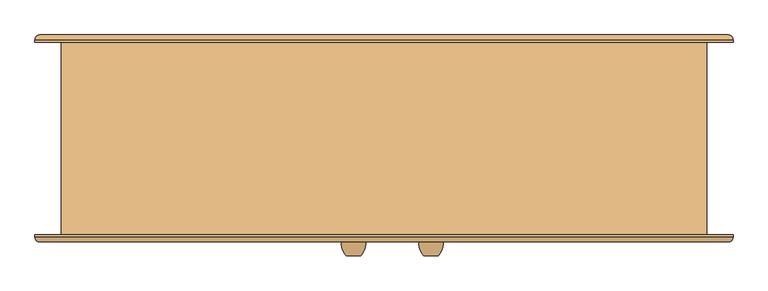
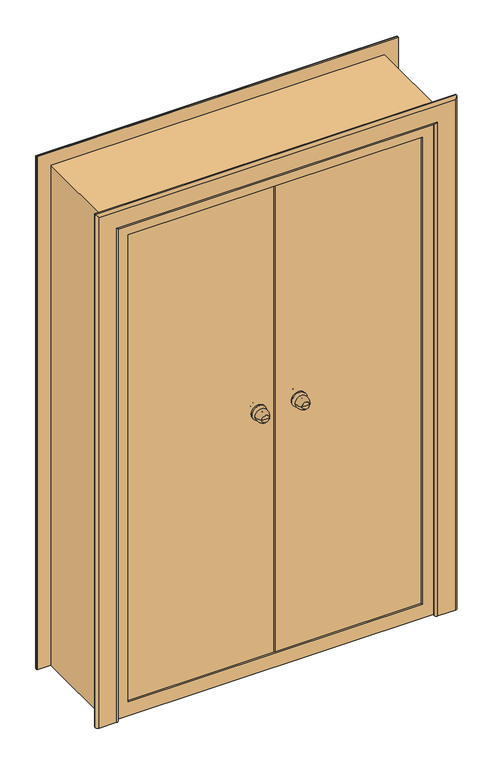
"""IFC4 building model written with IfcOpenShell, lengths in millimetres: door geometry, Наружная дверь 2-Навесная - Один проем наружу с порогом - 31173-2003 : ДСН ДКН М2 2100-1300 ГОСТ 31173-2003."""

import ifcopenshell
import ifcopenshell.guid

model = None  # the IFC model being written
_history = None  # IfcOwnerHistory: only IFC2X3 demands one
_inside = {}  # id of a spatial element -> (the spatial element, [elements in it])
_under = {}  # id of a project, library or spatial element -> (it, [spatial elements below it])
_declared = {}  # id of a project -> (the project, [libraries it declares])
_typed = {}  # id of a type object -> (the type object, [elements of that type])
_made_of = {}  # id of a material, layer set ... -> (it, [elements and type objects made of it])


def new_model(schema):
    """Start an empty IFC model of exactly this schema.

    Asked for "IFC4X3", IfcOpenShell would pick the latest addendum, in which some entities
    have other attributes; the version numbers below select the first issue.
    IFC2X3 requires an IfcOwnerHistory on every rooted entity: one is made here for all.
    """
    global model, _history
    if schema == "IFC4X3":
        model = ifcopenshell.file(schema_version=(4, 3, 0, 0))
    else:
        model = ifcopenshell.file(schema=schema)
    _inside.clear()
    _under.clear()
    _declared.clear()
    _typed.clear()
    _made_of.clear()
    _history = None
    if model.schema == "IFC2X3":
        org = make("IfcOrganization", Name="unknown")
        user = make(
            "IfcPersonAndOrganization",
            ThePerson=make("IfcPerson", FamilyName="unknown"),
            TheOrganization=org,
        )
        app = make(
            "IfcApplication",
            ApplicationDeveloper=org,
            Version="unknown",
            ApplicationFullName="unknown",
            ApplicationIdentifier="unknown",
        )
        _history = make(
            "IfcOwnerHistory",
            OwningUser=user,
            OwningApplication=app,
            ChangeAction="ADDED",
            CreationDate=0,
        )
    return model


def make(cls, **values):
    """One entity of the class cls with the attributes given. An attribute that is None is left unset."""
    return model.create_entity(
        cls, **{name: value for name, value in values.items() if value is not None}
    )


def rooted(cls, **values):
    """An entity with a GlobalId (a new one), such as an element, a storey or a relation."""
    return make(cls, GlobalId=ifcopenshell.guid.new(), OwnerHistory=_history, **values)


def si_unit(unit_type, name, prefix=None):
    """IfcSIUnit, for example si_unit("LENGTHUNIT", "METRE", prefix="MILLI")."""
    return make("IfcSIUnit", UnitType=unit_type, Prefix=prefix, Name=name)


def assignment(units):
    """IfcUnitAssignment: the units of a project."""
    return None if units is None else make("IfcUnitAssignment", Units=units)


def point(xyz):
    """IfcCartesianPoint."""
    return None if xyz is None else make("IfcCartesianPoint", Coordinates=xyz)


def direction(xyz):
    """IfcDirection."""
    return None if xyz is None else make("IfcDirection", DirectionRatios=xyz)


def frame(location, z_axis=None, x_axis=None):
    """IfcAxis2Placement3D, a coordinate frame: its origin and axes. An axis left out is left unset."""
    return make(
        "IfcAxis2Placement3D",
        Location=point(location),
        Axis=direction(z_axis),
        RefDirection=direction(x_axis),
    )


def origin():
    """The frame at (0, 0, 0) with its axes left unset."""
    return frame((0.0, 0.0, 0.0))


def place(relative_to, where):
    """IfcLocalPlacement: puts the frame where relative to a parent placement (None: the world)."""
    return make(
        "IfcLocalPlacement", PlacementRelTo=relative_to, RelativePlacement=where
    )


def context(
    kind, dimensions, precision=None, world=None, true_north=None, identifier=None
):
    """IfcGeometricRepresentationContext, for example the 3D "Model" context."""
    return make(
        "IfcGeometricRepresentationContext",
        ContextIdentifier=identifier,
        ContextType=kind,
        CoordinateSpaceDimension=dimensions,
        Precision=precision,
        WorldCoordinateSystem=world,
        TrueNorth=true_north,
    )


def project(units=None, contexts=None):
    """IfcProject with its units and contexts."""
    return rooted(
        "IfcProject",
        Name="project",
        RepresentationContexts=contexts,
        UnitsInContext=assignment(units),
    )


def spatial(cls, under=None, at=None, **own):
    """A site, building, storey or space (cls), placed at a placement, below another one or the project."""
    s = rooted(cls, ObjectPlacement=at, **own)
    if under is not None:
        _under.setdefault(under.id(), (under, []))[1].append(s)
    return s


def polyline(points):
    """IfcPolyline through the points."""
    return make("IfcPolyline", Points=[point(p) for p in points])


def circle_curve(where, radius):
    """IfcCircle in the frame where."""
    return make("IfcCircle", Position=where, Radius=radius)


def ellipse_curve(where, semi_axis1, semi_axis2):
    """IfcEllipse in the frame where."""
    return make(
        "IfcEllipse", Position=where, SemiAxis1=semi_axis1, SemiAxis2=semi_axis2
    )


def trimmed(basis, trim1, trim2, sense, master):
    """IfcTrimmedCurve: the piece of a basis curve between two trims."""
    return make(
        "IfcTrimmedCurve",
        BasisCurve=basis,
        Trim1=trim1,
        Trim2=trim2,
        SenseAgreement=sense,
        MasterRepresentation=master,
    )


def outline(outer, holes=None, kind="AREA"):
    """IfcArbitraryClosedProfileDef: a profile drawn as a closed curve; with holes, ...WithVoids."""
    if holes is None:
        return make("IfcArbitraryClosedProfileDef", ProfileType=kind, OuterCurve=outer)
    return make(
        "IfcArbitraryProfileDefWithVoids",
        ProfileType=kind,
        OuterCurve=outer,
        InnerCurves=holes,
    )


def extrude(swept, where, along, depth):
    """IfcExtrudedAreaSolid: the profile swept, set in the frame where, extruded along a direction by depth."""
    return make(
        "IfcExtrudedAreaSolid",
        SweptArea=swept,
        Position=where,
        ExtrudedDirection=direction(along),
        Depth=depth,
    )


def faces_of(points, faces, orient=None, outer=None):
    """IfcFace entities. A face is a list of loops; a loop is a list of indices into points, from 0.

    orient and outer hold one flag for each loop. By default every Orientation is true, the
    first loop of a face is its IfcFaceOuterBound and the others are IfcFaceBound.
    """
    made = []
    for i, loops in enumerate(faces):
        bounds = []
        for j, loop in enumerate(loops):
            is_outer = j == 0 if outer is None else outer[i][j]
            bounds.append(
                make(
                    "IfcFaceOuterBound" if is_outer else "IfcFaceBound",
                    Bound=make("IfcPolyLoop", Polygon=[points[k] for k in loop]),
                    Orientation=True if orient is None else orient[i][j],
                )
            )
        made.append(make("IfcFace", Bounds=bounds))
    return made


def faceted_brep(points, faces, orient=None, outer=None, voids=None):
    """IfcFacetedBrep: a solid bounded by flat faces; with voids (closed shells), ...WithVoids."""
    shared = [point(p) for p in points]
    hull = make("IfcClosedShell", CfsFaces=faces_of(shared, faces, orient, outer))
    if voids is None:
        return make("IfcFacetedBrep", Outer=hull)
    return make(
        "IfcFacetedBrepWithVoids",
        Outer=hull,
        Voids=[
            make(cls, CfsFaces=faces_of(shared, fs, o, b)) for cls, fs, o, b in voids
        ],
    )


def shape(context_of_items, identifier, shape_type, items):
    """IfcShapeRepresentation: the items that make up one representation, for example the "Body"."""
    return make(
        "IfcShapeRepresentation",
        ContextOfItems=context_of_items,
        RepresentationIdentifier=identifier,
        RepresentationType=shape_type,
        Items=items,
    )


def source(mapping_origin, context_of_items, identifier, shape_type, items):
    """IfcRepresentationMap: a shape defined once, which mapped items show again and again."""
    return make(
        "IfcRepresentationMap",
        MappingOrigin=mapping_origin,
        MappedRepresentation=shape(context_of_items, identifier, shape_type, items),
    )


def transform(
    local_origin,
    x_axis=None,
    y_axis=None,
    z_axis=None,
    scale=None,
    scale2=None,
    scale3=None,
    uniform=True,
):
    """IfcCartesianTransformationOperator3D, or its non-uniform kind. x_axis, y_axis, z_axis: its Axis1, 2, 3."""
    if uniform:
        return make(
            "IfcCartesianTransformationOperator3D",
            Axis1=direction(x_axis),
            Axis2=direction(y_axis),
            LocalOrigin=point(local_origin),
            Scale=scale,
            Axis3=direction(z_axis),
        )
    return make(
        "IfcCartesianTransformationOperator3DnonUniform",
        Axis1=direction(x_axis),
        Axis2=direction(y_axis),
        LocalOrigin=point(local_origin),
        Scale=scale,
        Axis3=direction(z_axis),
        Scale2=scale2,
        Scale3=scale3,
    )


def mapped(mapping_source, mapping_target):
    """IfcMappedItem: shows the shape of a source again, moved by a transform."""
    return make(
        "IfcMappedItem", MappingSource=mapping_source, MappingTarget=mapping_target
    )


def made_of(thing, what):
    """Note that an element or type object is made of a material, layer set ...; save() writes the relation."""
    if what is not None:
        _made_of.setdefault(what.id(), (what, []))[1].append(thing)
    return thing


def element(
    cls,
    number,
    at=None,
    inside=None,
    cuts=None,
    type_object=None,
    material=None,
    context=None,
    identifier="Body",
    shape_type=None,
    held_by="IfcProductDefinitionShape",
    body=None,
    shapes=None,
    **own,
):
    """One element of the class cls, such as IfcWall. Its Tag is "e" and its number.

    at: its placement. inside: the storey or other place that contains it. cuts: it is an
    opening in that element (IfcRelVoidsElement). A single representation is given by context,
    identifier, shape_type and body (its items); several are given by shapes. held_by: the class
    of the entity that holds the representations. save() writes the other relations.
    """
    e = rooted(cls, Tag="e%d" % number, ObjectPlacement=at, **own)
    if body is not None:
        shapes = [shape(context, identifier, shape_type, body)]
    if shapes is not None:
        e.Representation = make(held_by, Representations=shapes)
    if inside is not None:
        _inside.setdefault(inside.id(), (inside, []))[1].append(e)
    if cuts is not None:
        rooted(
            "IfcRelVoidsElement", RelatingBuildingElement=cuts, RelatedOpeningElement=e
        )
    if type_object is not None:
        _typed.setdefault(type_object.id(), (type_object, []))[1].append(e)
    return made_of(e, material)


def aggregate(whole, parts):
    """IfcRelAggregates: a whole, such as a stair, and the parts it consists of."""
    return rooted("IfcRelAggregates", RelatingObject=whole, RelatedObjects=parts)


def save(model, path):
    """Write the relations noted so far, then the file.

    IfcRelAggregates (storeys below a building ...), IfcRelContainedInSpatialStructure (elements
    in a storey), IfcRelDefinesByType, IfcRelAssociatesMaterial and IfcRelDeclares: one each for
    every whole, place, type object, material and project.
    """
    for whole, parts in _under.values():
        aggregate(whole, parts)
    for where, things in _inside.values():
        rooted(
            "IfcRelContainedInSpatialStructure",
            RelatedElements=things,
            RelatingStructure=where,
        )
    for kind, things in _typed.values():
        rooted("IfcRelDefinesByType", RelatedObjects=things, RelatingType=kind)
    for what, things in _made_of.values():
        rooted("IfcRelAssociatesMaterial", RelatedObjects=things, RelatingMaterial=what)
    for by, libraries in _declared.values():
        rooted("IfcRelDeclares", RelatingContext=by, RelatedDefinitions=libraries)
    model.write(path)


def plane_surface(at):
    """IfcPlane: the flat surface through the origin of the frame at, square to its z axis."""
    return make("IfcPlane", Position=at)


def cylinder_surface(at, radius):
    """IfcCylindricalSurface: all points at the distance radius from the z axis of the frame at."""
    return make("IfcCylindricalSurface", Position=at, Radius=radius)


def revolved_surface(curve, axis_point, axis_direction):
    """IfcSurfaceOfRevolution: the curve turned about the line through axis_point along axis_direction."""
    return make(
        "IfcSurfaceOfRevolution",
        SweptCurve=make("IfcArbitraryOpenProfileDef", ProfileType="CURVE", Curve=curve),
        AxisPosition=make("IfcAxis1Placement", Location=point(axis_point), Axis=direction(axis_direction)),
    )


def advanced_brep(points, edges, surfaces, faces):
    """IfcAdvancedBrep: a solid bounded by faces that lie on surfaces and meet in shared edges.

    An edge is (start, end): straight between two places in points (the first is 0);
    or (start, end, curve); or (start, end, curve, False) where it runs against its curve.
    A face is (place in surfaces, loops), or (place, loops, False) where it looks against
    its surface's normal. A loop lists edges by number (the first is 1), with a minus sign
    where the edge is run from its end to its start. The first loop is the outer one.
    """
    corners = [point(p) for p in points]
    vertices = [make("IfcVertexPoint", VertexGeometry=c) for c in corners]
    made = []
    for start, end, *more in edges:
        made.append(
            make(
                "IfcEdgeCurve",
                EdgeStart=vertices[start],
                EdgeEnd=vertices[end],
                EdgeGeometry=more[0] if more else make("IfcPolyline", Points=[corners[start], corners[end]]),
                SameSense=more[1] if len(more) > 1 else True,
            )
        )
    hull = []
    for where, loops, *sense in faces:
        bounds = []
        for j, loop in enumerate(loops):
            ring = [make("IfcOrientedEdge", EdgeElement=made[abs(k) - 1], Orientation=k > 0) for k in loop]
            bounds.append(
                make(
                    "IfcFaceOuterBound" if j == 0 else "IfcFaceBound",
                    Bound=make("IfcEdgeLoop", EdgeList=ring),
                    Orientation=True,
                )
            )
        hull.append(make("IfcAdvancedFace", Bounds=bounds, FaceSurface=surfaces[where], SameSense=sense[0] if sense else True))
    return make("IfcAdvancedBrep", Outer=make("IfcClosedShell", CfsFaces=hull))


def door_6ba15531(model_context):
    return source(origin(), model_context, "Body", "SolidModel", [
        advanced_brep(
        [(113.0, -243.0, 1100.0), (83.0, -243.0, 1100.0), (98.0, -243.0, 1100.0), (123.0, -213.0, 1100.0), (73.0, -213.0, 1100.0), (116.0, -213.0, 1100.0), (80.0, -213.0, 1100.0), (108.0, -205.0, 1100.0), (88.0, -205.0, 1100.0), (108.0, -199.0, 1100.0), (88.0, -199.0, 1100.0), (68.0, -199.0, 1100.0), (128.0, -199.0, 1100.0), (68.0, -193.0, 1100.0), (128.0, -193.0, 1100.0)],
        [
            (0, 1, circle_curve(frame((98.0, -243.0, 1100.0), z_axis=(0.0, -1.0, 0.0), x_axis=(-1.0, 0.0, 0.0)), 15.0)),
            (1, 2),
            (2, 0),
            (1, 0, circle_curve(frame((98.0, -243.0, 1100.0), z_axis=(0.0, -1.0, 0.0), x_axis=(-1.0, 0.0, 0.0)), 15.0)),
            (0, 3, circle_curve(frame((88.3773735, -218.1257912, 1100.0), z_axis=(0.0, 0.0, 1.0), x_axis=(-1.0, 0.0, 0.0)), 35.0)),
            (3, 4, circle_curve(frame((98.0, -213.0, 1100.0), z_axis=(0.0, -1.0, 0.0), x_axis=(-1.0, 0.0, 0.0)), 25.0)),
            (4, 1, circle_curve(frame((107.6226265, -218.1257912, 1100.0), z_axis=(0.0, 0.0, 1.0), x_axis=(1.0, 0.0, 0.0)), 35.0)),
            (4, 3, circle_curve(frame((98.0, -213.0, 1100.0), z_axis=(0.0, -1.0, 0.0), x_axis=(-1.0, 0.0, 0.0)), 25.0)),
            (3, 5),
            (5, 6, circle_curve(frame((98.0, -213.0, 1100.0), z_axis=(0.0, -1.0, 0.0), x_axis=(-1.0, 0.0, 0.0)), 18.0)),
            (6, 4),
            (6, 5, circle_curve(frame((98.0, -213.0, 1100.0), z_axis=(0.0, -1.0, 0.0), x_axis=(-1.0, 0.0, 0.0)), 18.0)),
            (5, 7, circle_curve(frame((116.0, -205.0, 1100.0), z_axis=(0.0, 0.0, -1.0), x_axis=(-1.0, 0.0, 0.0)), 8.0)),
            (7, 8, circle_curve(frame((98.0, -205.0, 1100.0), z_axis=(0.0, -1.0, 0.0), x_axis=(-1.0, 0.0, 0.0)), 10.0)),
            (8, 6, circle_curve(frame((80.0, -205.0, 1100.0), z_axis=(0.0, 0.0, -1.0), x_axis=(1.0, 0.0, 0.0)), 8.0)),
            (8, 7, circle_curve(frame((98.0, -205.0, 1100.0), z_axis=(0.0, -1.0, 0.0), x_axis=(-1.0, 0.0, 0.0)), 10.0)),
            (7, 9),
            (9, 10, circle_curve(frame((98.0, -199.0, 1100.0), z_axis=(0.0, -1.0, 0.0), x_axis=(-1.0, 0.0, 0.0)), 10.0)),
            (10, 8),
            (10, 9, circle_curve(frame((98.0, -199.0, 1100.0), z_axis=(0.0, -1.0, 0.0), x_axis=(-1.0, 0.0, 0.0)), 10.0)),
            (11, 12, circle_curve(frame((98.0, -199.0, 1100.0), z_axis=(0.0, -1.0, 0.0), x_axis=(1.0, 0.0, 0.0)), 30.0)),
            (12, 11, circle_curve(frame((98.0, -199.0, 1100.0), z_axis=(0.0, -1.0, 0.0), x_axis=(1.0, 0.0, 0.0)), 30.0)),
            (13, 14, circle_curve(frame((98.0, -193.0, 1100.0), z_axis=(0.0, 1.0, 0.0), x_axis=(1.0, 0.0, 0.0)), 30.0)),
            (14, 13, circle_curve(frame((98.0, -193.0, 1100.0), z_axis=(0.0, 1.0, 0.0), x_axis=(1.0, 0.0, 0.0)), 30.0)),
            (11, 13),
            (14, 12),
        ],
        [
            plane_surface(frame((98.0, -243.0, 1100.0), z_axis=(0.0, -1.0, 0.0), x_axis=(-1.0, 0.0, 0.0))),
            revolved_surface(trimmed(ellipse_curve(frame((107.6226265, -218.1257912, 1100.0), z_axis=(0.0, 0.0, -1.0), x_axis=(1.0, 0.0, 0.0)), 35.0, 35.0), [point((83.0, -243.0, 1100.0))], [point((73.0, -213.0, 1100.0))], True, "CARTESIAN"), (98.0, -273.0, 1100.0), (0.0, 1.0, 0.0)),
            plane_surface(frame((98.0, -213.0, 1100.0), z_axis=(0.0, 1.0, 0.0), x_axis=(-1.0, 0.0, 0.0))),
            revolved_surface(trimmed(ellipse_curve(frame((80.0, -205.0, 1100.0), z_axis=(0.0, 0.0, 1.0), x_axis=(1.0, 0.0, 0.0)), 8.0, 8.0), [point((80.0, -213.0, 1100.0))], [point((88.0, -205.0, 1100.0))], True, "CARTESIAN"), (98.0, -273.0, 1100.0), (0.0, 1.0, 0.0)),
            cylinder_surface(frame((98.0, -273.0, 1100.0), z_axis=(0.0, 1.0, 0.0), x_axis=(-1.0, 0.0, 0.0)), 10.0),
            plane_surface(frame((128.0, -199.0, 1100.0), z_axis=(0.0, -1.0, 0.0), x_axis=(0.0, 0.0, 1.0))),
            plane_surface(frame((128.0, -193.0, 1100.0), z_axis=(0.0, 1.0, 0.0), x_axis=(0.0, 0.0, -1.0))),
            cylinder_surface(frame((98.0, -193.0, 1100.0), z_axis=(0.0, -1.0, 0.0), x_axis=(1.0, 0.0, 0.0)), 30.0),
        ],
        [
            (0, [[1, 2, 3]]),
            (0, [[-2, 4, -3]]),
            (1, [[-1, 5, 6, 7]]),
            (1, [[-4, -7, 8, -5]]),
            (2, [[-6, 9, 10, 11]]),
            (2, [[-8, -11, 12, -9]]),
            (3, [[-10, 13, 14, 15]]),
            (3, [[-12, -15, 16, -13]]),
            (4, [[-14, 17, 18, 19]]),
            (4, [[-16, -19, 20, -17]]),
            (5, [[21, 22], [-18, -20]]),
            (6, [[23, 24]]),
            (7, [[-21, 25, -24, 26]]),
            (7, [[-22, -26, -23, -25]]),
        ],
    ),
        advanced_brep(
        [(83.0, -103.0, 1100.0), (113.0, -103.0, 1100.0), (98.0, -103.0, 1100.0), (73.0, -133.0, 1100.0), (123.0, -133.0, 1100.0), (80.0, -133.0, 1100.0), (116.0, -133.0, 1100.0), (88.0, -141.0, 1100.0), (108.0, -141.0, 1100.0), (88.0, -147.0, 1100.0), (108.0, -147.0, 1100.0), (128.0, -147.0, 1100.0), (68.0, -147.0, 1100.0), (128.0, -153.0, 1100.0), (68.0, -153.0, 1100.0)],
        [
            (0, 1, circle_curve(frame((98.0, -103.0, 1100.0), z_axis=(0.0, 1.0, 0.0), x_axis=(1.0, 0.0, 0.0)), 15.0)),
            (1, 2),
            (2, 0),
            (1, 0, circle_curve(frame((98.0, -103.0, 1100.0), z_axis=(0.0, 1.0, 0.0), x_axis=(1.0, 0.0, 0.0)), 15.0)),
            (0, 3, circle_curve(frame((107.6226265, -127.8742088, 1100.0), z_axis=(0.0, 0.0, 1.0), x_axis=(1.0, 0.0, 0.0)), 35.0)),
            (3, 4, circle_curve(frame((98.0, -133.0, 1100.0), z_axis=(0.0, 1.0, 0.0), x_axis=(1.0, 0.0, 0.0)), 25.0)),
            (4, 1, circle_curve(frame((88.3773735, -127.8742088, 1100.0), z_axis=(0.0, 0.0, 1.0), x_axis=(-1.0, 0.0, 0.0)), 35.0)),
            (4, 3, circle_curve(frame((98.0, -133.0, 1100.0), z_axis=(0.0, 1.0, 0.0), x_axis=(1.0, 0.0, 0.0)), 25.0)),
            (3, 5),
            (5, 6, circle_curve(frame((98.0, -133.0, 1100.0), z_axis=(0.0, 1.0, 0.0), x_axis=(1.0, 0.0, 0.0)), 18.0)),
            (6, 4),
            (6, 5, circle_curve(frame((98.0, -133.0, 1100.0), z_axis=(0.0, 1.0, 0.0), x_axis=(1.0, 0.0, 0.0)), 18.0)),
            (5, 7, circle_curve(frame((80.0, -141.0, 1100.0), z_axis=(0.0, 0.0, -1.0), x_axis=(1.0, 0.0, 0.0)), 8.0)),
            (7, 8, circle_curve(frame((98.0, -141.0, 1100.0), z_axis=(0.0, 1.0, 0.0), x_axis=(1.0, 0.0, 0.0)), 10.0)),
            (8, 6, circle_curve(frame((116.0, -141.0, 1100.0), z_axis=(0.0, 0.0, -1.0), x_axis=(-1.0, 0.0, 0.0)), 8.0)),
            (8, 7, circle_curve(frame((98.0, -141.0, 1100.0), z_axis=(0.0, 1.0, 0.0), x_axis=(1.0, 0.0, 0.0)), 10.0)),
            (7, 9),
            (9, 10, circle_curve(frame((98.0, -147.0, 1100.0), z_axis=(0.0, 1.0, 0.0), x_axis=(1.0, 0.0, 0.0)), 10.0)),
            (10, 8),
            (10, 9, circle_curve(frame((98.0, -147.0, 1100.0), z_axis=(0.0, 1.0, 0.0), x_axis=(1.0, 0.0, 0.0)), 10.0)),
            (11, 12, circle_curve(frame((98.0, -147.0, 1100.0), z_axis=(0.0, 1.0, 0.0), x_axis=(-1.0, 0.0, 0.0)), 30.0)),
            (12, 11, circle_curve(frame((98.0, -147.0, 1100.0), z_axis=(0.0, 1.0, 0.0), x_axis=(-1.0, 0.0, 0.0)), 30.0)),
            (13, 14, circle_curve(frame((98.0, -153.0, 1100.0), z_axis=(0.0, -1.0, 0.0), x_axis=(-1.0, 0.0, 0.0)), 30.0)),
            (14, 13, circle_curve(frame((98.0, -153.0, 1100.0), z_axis=(0.0, -1.0, 0.0), x_axis=(-1.0, 0.0, 0.0)), 30.0)),
            (11, 13),
            (14, 12),
        ],
        [
            plane_surface(frame((98.0, -103.0, 1100.0), z_axis=(0.0, 1.0, 0.0), x_axis=(1.0, 0.0, 0.0))),
            revolved_surface(trimmed(ellipse_curve(frame((88.3773735, -127.8742088, 1100.0), z_axis=(0.0, 0.0, -1.0), x_axis=(-1.0, 0.0, 0.0)), 35.0, 35.0), [point((113.0, -103.0, 1100.0))], [point((123.0, -133.0, 1100.0))], True, "CARTESIAN"), (98.0, -73.0, 1100.0), (0.0, -1.0, 0.0)),
            plane_surface(frame((98.0, -133.0, 1100.0), z_axis=(0.0, -1.0, 0.0), x_axis=(1.0, 0.0, 0.0))),
            revolved_surface(trimmed(ellipse_curve(frame((116.0, -141.0, 1100.0), z_axis=(0.0, 0.0, 1.0), x_axis=(-1.0, 0.0, 0.0)), 8.0, 8.0), [point((116.0, -133.0, 1100.0))], [point((108.0, -141.0, 1100.0))], True, "CARTESIAN"), (98.0, -73.0, 1100.0), (0.0, -1.0, 0.0)),
            cylinder_surface(frame((98.0, -73.0, 1100.0), z_axis=(0.0, -1.0, 0.0), x_axis=(1.0, 0.0, 0.0)), 10.0),
            plane_surface(frame((68.0, -147.0, 1100.0), z_axis=(0.0, 1.0, 0.0), x_axis=(0.0, 0.0, 1.0))),
            plane_surface(frame((68.0, -153.0, 1100.0), z_axis=(0.0, -1.0, 0.0), x_axis=(0.0, 0.0, -1.0))),
            cylinder_surface(frame((98.0, -153.0, 1100.0), z_axis=(0.0, 1.0, 0.0), x_axis=(-1.0, 0.0, 0.0)), 30.0),
        ],
        [
            (0, [[1, 2, 3]]),
            (0, [[-2, 4, -3]]),
            (1, [[-1, 5, 6, 7]]),
            (1, [[-4, -7, 8, -5]]),
            (2, [[-6, 9, 10, 11]]),
            (2, [[-8, -11, 12, -9]]),
            (3, [[-10, 13, 14, 15]]),
            (3, [[-12, -15, 16, -13]]),
            (4, [[-14, 17, 18, 19]]),
            (4, [[-16, -19, 20, -17]]),
            (5, [[21, 22], [-18, -20]]),
            (6, [[23, 24]]),
            (7, [[-21, 25, -24, 26]]),
            (7, [[-22, -26, -23, -25]]),
        ],
    ),
        advanced_brep(
        [(-48.0, -243.0, 1100.0), (-78.0, -243.0, 1100.0), (-63.0, -243.0, 1100.0), (-38.0, -213.0, 1100.0), (-88.0, -213.0, 1100.0), (-45.0, -213.0, 1100.0), (-81.0, -213.0, 1100.0), (-53.0, -205.0, 1100.0), (-73.0, -205.0, 1100.0), (-53.0, -199.0, 1100.0), (-73.0, -199.0, 1100.0), (-93.0, -199.0, 1100.0), (-33.0, -199.0, 1100.0), (-93.0, -193.0, 1100.0), (-33.0, -193.0, 1100.0)],
        [
            (0, 1, circle_curve(frame((-63.0, -243.0, 1100.0), z_axis=(0.0, -1.0, 0.0), x_axis=(-1.0, 0.0, 0.0)), 15.0)),
            (1, 2),
            (2, 0),
            (1, 0, circle_curve(frame((-63.0, -243.0, 1100.0), z_axis=(0.0, -1.0, 0.0), x_axis=(-1.0, 0.0, 0.0)), 15.0)),
            (0, 3, circle_curve(frame((-72.6226265, -218.1257912, 1100.0), z_axis=(0.0, 0.0, 1.0), x_axis=(-1.0, 0.0, 0.0)), 35.0)),
            (3, 4, circle_curve(frame((-63.0, -213.0, 1100.0), z_axis=(0.0, -1.0, 0.0), x_axis=(-1.0, 0.0, 0.0)), 25.0)),
            (4, 1, circle_curve(frame((-53.3773735, -218.1257912, 1100.0), z_axis=(0.0, 0.0, 1.0), x_axis=(1.0, 0.0, 0.0)), 35.0)),
            (4, 3, circle_curve(frame((-63.0, -213.0, 1100.0), z_axis=(0.0, -1.0, 0.0), x_axis=(-1.0, 0.0, 0.0)), 25.0)),
            (3, 5),
            (5, 6, circle_curve(frame((-63.0, -213.0, 1100.0), z_axis=(0.0, -1.0, 0.0), x_axis=(-1.0, 0.0, 0.0)), 18.0)),
            (6, 4),
            (6, 5, circle_curve(frame((-63.0, -213.0, 1100.0), z_axis=(0.0, -1.0, 0.0), x_axis=(-1.0, 0.0, 0.0)), 18.0)),
            (5, 7, circle_curve(frame((-45.0, -205.0, 1100.0), z_axis=(0.0, 0.0, -1.0), x_axis=(-1.0, 0.0, 0.0)), 8.0)),
            (7, 8, circle_curve(frame((-63.0, -205.0, 1100.0), z_axis=(0.0, -1.0, 0.0), x_axis=(-1.0, 0.0, 0.0)), 10.0)),
            (8, 6, circle_curve(frame((-81.0, -205.0, 1100.0), z_axis=(0.0, 0.0, -1.0), x_axis=(1.0, 0.0, 0.0)), 8.0)),
            (8, 7, circle_curve(frame((-63.0, -205.0, 1100.0), z_axis=(0.0, -1.0, 0.0), x_axis=(-1.0, 0.0, 0.0)), 10.0)),
            (7, 9),
            (9, 10, circle_curve(frame((-63.0, -199.0, 1100.0), z_axis=(0.0, -1.0, 0.0), x_axis=(-1.0, 0.0, 0.0)), 10.0)),
            (10, 8),
            (10, 9, circle_curve(frame((-63.0, -199.0, 1100.0), z_axis=(0.0, -1.0, 0.0), x_axis=(-1.0, 0.0, 0.0)), 10.0)),
            (11, 12, circle_curve(frame((-63.0, -199.0, 1100.0), z_axis=(0.0, -1.0, 0.0), x_axis=(1.0, 0.0, 0.0)), 30.0)),
            (12, 11, circle_curve(frame((-63.0, -199.0, 1100.0), z_axis=(0.0, -1.0, 0.0), x_axis=(1.0, 0.0, 0.0)), 30.0)),
            (13, 14, circle_curve(frame((-63.0, -193.0, 1100.0), z_axis=(0.0, 1.0, 0.0), x_axis=(1.0, 0.0, 0.0)), 30.0)),
            (14, 13, circle_curve(frame((-63.0, -193.0, 1100.0), z_axis=(0.0, 1.0, 0.0), x_axis=(1.0, 0.0, 0.0)), 30.0)),
            (11, 13),
            (14, 12),
        ],
        [
            plane_surface(frame((-63.0, -243.0, 1100.0), z_axis=(0.0, -1.0, 0.0), x_axis=(-1.0, 0.0, 0.0))),
            revolved_surface(trimmed(ellipse_curve(frame((-53.3773735, -218.1257912, 1100.0), z_axis=(0.0, 0.0, -1.0), x_axis=(1.0, 0.0, 0.0)), 35.0, 35.0), [point((-78.0, -243.0, 1100.0))], [point((-88.0, -213.0, 1100.0))], True, "CARTESIAN"), (-63.0, -273.0, 1100.0), (0.0, 1.0, 0.0)),
            plane_surface(frame((-63.0, -213.0, 1100.0), z_axis=(0.0, 1.0, 0.0), x_axis=(-1.0, 0.0, 0.0))),
            revolved_surface(trimmed(ellipse_curve(frame((-81.0, -205.0, 1100.0), z_axis=(0.0, 0.0, 1.0), x_axis=(1.0, 0.0, 0.0)), 8.0, 8.0), [point((-81.0, -213.0, 1100.0))], [point((-73.0, -205.0, 1100.0))], True, "CARTESIAN"), (-63.0, -273.0, 1100.0), (0.0, 1.0, 0.0)),
            cylinder_surface(frame((-63.0, -273.0, 1100.0), z_axis=(0.0, 1.0, 0.0), x_axis=(-1.0, 0.0, 0.0)), 10.0),
            plane_surface(frame((-33.0, -199.0, 1100.0), z_axis=(0.0, -1.0, 0.0), x_axis=(0.0, 0.0, 1.0))),
            plane_surface(frame((-33.0, -193.0, 1100.0), z_axis=(0.0, 1.0, 0.0), x_axis=(0.0, 0.0, -1.0))),
            cylinder_surface(frame((-63.0, -193.0, 1100.0), z_axis=(0.0, -1.0, 0.0), x_axis=(1.0, 0.0, 0.0)), 30.0),
        ],
        [
            (0, [[1, 2, 3]]),
            (0, [[-2, 4, -3]]),
            (1, [[-1, 5, 6, 7]]),
            (1, [[-4, -7, 8, -5]]),
            (2, [[-6, 9, 10, 11]]),
            (2, [[-8, -11, 12, -9]]),
            (3, [[-10, 13, 14, 15]]),
            (3, [[-12, -15, 16, -13]]),
            (4, [[-14, 17, 18, 19]]),
            (4, [[-16, -19, 20, -17]]),
            (5, [[21, 22], [-18, -20]]),
            (6, [[23, 24]]),
            (7, [[-21, 25, -24, 26]]),
            (7, [[-22, -26, -23, -25]]),
        ],
    ),
        advanced_brep(
        [(-78.0, -103.0, 1100.0), (-48.0, -103.0, 1100.0), (-63.0, -103.0, 1100.0), (-88.0, -133.0, 1100.0), (-38.0, -133.0, 1100.0), (-81.0, -133.0, 1100.0), (-45.0, -133.0, 1100.0), (-73.0, -141.0, 1100.0), (-53.0, -141.0, 1100.0), (-73.0, -147.0, 1100.0), (-53.0, -147.0, 1100.0), (-33.0, -147.0, 1100.0), (-93.0, -147.0, 1100.0), (-33.0, -153.0, 1100.0), (-93.0, -153.0, 1100.0)],
        [
            (0, 1, circle_curve(frame((-63.0, -103.0, 1100.0), z_axis=(0.0, 1.0, 0.0), x_axis=(1.0, 0.0, 0.0)), 15.0)),
            (1, 2),
            (2, 0),
            (1, 0, circle_curve(frame((-63.0, -103.0, 1100.0), z_axis=(0.0, 1.0, 0.0), x_axis=(1.0, 0.0, 0.0)), 15.0)),
            (0, 3, circle_curve(frame((-53.3773735, -127.8742088, 1100.0), z_axis=(0.0, 0.0, 1.0), x_axis=(1.0, 0.0, 0.0)), 35.0)),
            (3, 4, circle_curve(frame((-63.0, -133.0, 1100.0), z_axis=(0.0, 1.0, 0.0), x_axis=(1.0, 0.0, 0.0)), 25.0)),
            (4, 1, circle_curve(frame((-72.6226265, -127.8742088, 1100.0), z_axis=(0.0, 0.0, 1.0), x_axis=(-1.0, 0.0, 0.0)), 35.0)),
            (4, 3, circle_curve(frame((-63.0, -133.0, 1100.0), z_axis=(0.0, 1.0, 0.0), x_axis=(1.0, 0.0, 0.0)), 25.0)),
            (3, 5),
            (5, 6, circle_curve(frame((-63.0, -133.0, 1100.0), z_axis=(0.0, 1.0, 0.0), x_axis=(1.0, 0.0, 0.0)), 18.0)),
            (6, 4),
            (6, 5, circle_curve(frame((-63.0, -133.0, 1100.0), z_axis=(0.0, 1.0, 0.0), x_axis=(1.0, 0.0, 0.0)), 18.0)),
            (5, 7, circle_curve(frame((-81.0, -141.0, 1100.0), z_axis=(0.0, 0.0, -1.0), x_axis=(1.0, 0.0, 0.0)), 8.0)),
            (7, 8, circle_curve(frame((-63.0, -141.0, 1100.0), z_axis=(0.0, 1.0, 0.0), x_axis=(1.0, 0.0, 0.0)), 10.0)),
            (8, 6, circle_curve(frame((-45.0, -141.0, 1100.0), z_axis=(0.0, 0.0, -1.0), x_axis=(-1.0, 0.0, 0.0)), 8.0)),
            (8, 7, circle_curve(frame((-63.0, -141.0, 1100.0), z_axis=(0.0, 1.0, 0.0), x_axis=(1.0, 0.0, 0.0)), 10.0)),
            (7, 9),
            (9, 10, circle_curve(frame((-63.0, -147.0, 1100.0), z_axis=(0.0, 1.0, 0.0), x_axis=(1.0, 0.0, 0.0)), 10.0)),
            (10, 8),
            (10, 9, circle_curve(frame((-63.0, -147.0, 1100.0), z_axis=(0.0, 1.0, 0.0), x_axis=(1.0, 0.0, 0.0)), 10.0)),
            (11, 12, circle_curve(frame((-63.0, -147.0, 1100.0), z_axis=(0.0, 1.0, 0.0), x_axis=(-1.0, 0.0, 0.0)), 30.0)),
            (12, 11, circle_curve(frame((-63.0, -147.0, 1100.0), z_axis=(0.0, 1.0, 0.0), x_axis=(-1.0, 0.0, 0.0)), 30.0)),
            (13, 14, circle_curve(frame((-63.0, -153.0, 1100.0), z_axis=(0.0, -1.0, 0.0), x_axis=(-1.0, 0.0, 0.0)), 30.0)),
            (14, 13, circle_curve(frame((-63.0, -153.0, 1100.0), z_axis=(0.0, -1.0, 0.0), x_axis=(-1.0, 0.0, 0.0)), 30.0)),
            (11, 13),
            (14, 12),
        ],
        [
            plane_surface(frame((-63.0, -103.0, 1100.0), z_axis=(0.0, 1.0, 0.0), x_axis=(1.0, 0.0, 0.0))),
            revolved_surface(trimmed(ellipse_curve(frame((-72.6226265, -127.8742088, 1100.0), z_axis=(0.0, 0.0, -1.0), x_axis=(-1.0, 0.0, 0.0)), 35.0, 35.0), [point((-48.0, -103.0, 1100.0))], [point((-38.0, -133.0, 1100.0))], True, "CARTESIAN"), (-63.0, -73.0, 1100.0), (0.0, -1.0, 0.0)),
            plane_surface(frame((-63.0, -133.0, 1100.0), z_axis=(0.0, -1.0, 0.0), x_axis=(1.0, 0.0, 0.0))),
            revolved_surface(trimmed(ellipse_curve(frame((-45.0, -141.0, 1100.0), z_axis=(0.0, 0.0, 1.0), x_axis=(-1.0, 0.0, 0.0)), 8.0, 8.0), [point((-45.0, -133.0, 1100.0))], [point((-53.0, -141.0, 1100.0))], True, "CARTESIAN"), (-63.0, -73.0, 1100.0), (0.0, -1.0, 0.0)),
            cylinder_surface(frame((-63.0, -73.0, 1100.0), z_axis=(0.0, -1.0, 0.0), x_axis=(1.0, 0.0, 0.0)), 10.0),
            plane_surface(frame((-93.0, -147.0, 1100.0), z_axis=(0.0, 1.0, 0.0), x_axis=(0.0, 0.0, 1.0))),
            plane_surface(frame((-93.0, -153.0, 1100.0), z_axis=(0.0, -1.0, 0.0), x_axis=(0.0, 0.0, -1.0))),
            cylinder_surface(frame((-63.0, -153.0, 1100.0), z_axis=(0.0, 1.0, 0.0), x_axis=(-1.0, 0.0, 0.0)), 30.0),
        ],
        [
            (0, [[1, 2, 3]]),
            (0, [[-2, 4, -3]]),
            (1, [[-1, 5, 6, 7]]),
            (1, [[-4, -7, 8, -5]]),
            (2, [[-6, 9, 10, 11]]),
            (2, [[-8, -11, 12, -9]]),
            (3, [[-10, 13, 14, 15]]),
            (3, [[-12, -15, 16, -13]]),
            (4, [[-14, 17, 18, 19]]),
            (4, [[-16, -19, 20, -17]]),
            (5, [[21, 22], [-18, -20]]),
            (6, [[23, 24]]),
            (7, [[-21, 25, -24, 26]]),
            (7, [[-22, -26, -23, -25]]),
        ],
    ),
        faceted_brep([(38.0, -153.0, 25.0), (625.0, -153.0, 25.0), (625.0, -158.0, 25.0), (38.0, -158.0, 25.0), (38.0, -153.0, 2075.0), (625.0, -153.0, 2075.0), (625.0, -158.0, 2075.0), (38.0, -158.0, 2075.0), (38.0, -158.0, 2055.0), (605.0, -158.0, 2055.0), (605.0, -158.0, 45.0), (38.0, -158.0, 45.0), (38.0, -174.0, 45.0), (38.0, -174.0, 2055.0), (605.0, -193.0, 2055.0), (605.0, -193.0, 45.0), (3.0, -193.0, 45.0), (3.0, -174.0, 45.0), (3.0, -193.0, 2055.0), (3.0, -174.0, 2055.0)], [[[0, 1, 2, 3]], [[4, 5, 1, 0]], [[5, 6, 2, 1]], [[6, 7, 8, 9, 10, 11, 3, 2]], [[4, 0, 3, 11, 12, 13, 8, 7]], [[9, 14, 15, 10]], [[11, 10, 15, 16, 17, 12]], [[14, 18, 16, 15]], [[18, 19, 17, 16]], [[19, 13, 12, 17]], [[9, 8, 13, 19, 18, 14]], [[6, 5, 4, 7]]]),
        faceted_brep([(32.0, -158.0, 25.0), (-625.0, -158.0, 25.0), (-625.0, -153.0, 25.0), (32.0, -153.0, 25.0), (32.0, -158.0, 45.0), (-605.0, -158.0, 45.0), (-605.0, -158.0, 2055.0), (32.0, -158.0, 2055.0), (32.0, -158.0, 2075.0), (-625.0, -158.0, 2075.0), (-625.0, -153.0, 2075.0), (32.0, -153.0, 2075.0), (32.0, -168.0, 2055.0), (32.0, -168.0, 45.0), (-3.0, -168.0, 45.0), (-3.0, -193.0, 45.0), (-605.0, -193.0, 45.0), (-605.0, -193.0, 2055.0), (-3.0, -193.0, 2055.0), (-3.0, -168.0, 2055.0)], [[[0, 1, 2, 3]], [[0, 4, 5, 6, 7, 8, 9, 1]], [[1, 9, 10, 2]], [[10, 11, 3, 2]], [[3, 11, 8, 7, 12, 13, 4, 0]], [[5, 4, 13, 14, 15, 16]], [[17, 6, 5, 16]], [[18, 17, 16, 15]], [[19, 18, 15, 14]], [[12, 19, 14, 13]], [[11, 10, 9, 8]], [[7, 6, 17, 18, 19, 12]]]),
        extrude(outline(polyline([(0.0, 635.0), (0.0, 650.0), (2100.0, 650.0), (2100.0, -650.0), (0.0, -650.0), (0.0, -635.0), (2085.0, -635.0), (2085.0, 635.0), (0.0, 635.0)])), frame((0.0, -160.0, 0.0), z_axis=(0.0, 1.0, 0.0), x_axis=(0.0, 0.0, 1.0)), (0.0, 0.0, 1.0), 360.0),
        faceted_brep([(650.0, -160.0, 0.0), (650.0, -200.0, 0.0), (-650.0, -200.0, 0.0), (-650.0, -160.0, 0.0), (-650.0, -200.0, 2100.0), (-650.0, -160.0, 2100.0), (650.0, -200.0, 2100.0), (-590.0, -200.0, 2040.0), (590.0, -200.0, 2040.0), (590.0, -200.0, 60.0), (-590.0, -200.0, 60.0), (650.0, -160.0, 2100.0), (-610.0, -160.0, 40.0), (610.0, -160.0, 40.0), (610.0, -160.0, 2060.0), (-610.0, -160.0, 2060.0), (610.0, -195.0, 40.0), (-610.0, -195.0, 40.0), (-610.0, -195.0, 2060.0), (610.0, -195.0, 2060.0), (-590.0, -195.0, 60.0), (590.0, -195.0, 60.0), (590.0, -195.0, 2040.0), (-590.0, -195.0, 2040.0)], [[[0, 1, 2, 3]], [[3, 2, 4, 5]], [[2, 1, 6, 4], [7, 8, 9, 10]], [[5, 11, 0, 3], [12, 13, 14, 15]], [[16, 13, 12, 17]], [[17, 12, 15, 18]], [[18, 19, 16, 17], [20, 21, 22, 23]], [[9, 21, 20, 10]], [[10, 20, 23, 7]], [[11, 6, 1, 0]], [[19, 14, 13, 16]], [[8, 22, 21, 9]], [[5, 4, 6, 11]], [[18, 15, 14, 19]], [[7, 23, 22, 8]]]),
        advanced_brep(
        [(-725.0, -200.0, 0.0), (-635.0, -200.0, 0.0), (-635.0, -205.0, 0.0), (-645.0, -215.0, 0.0), (-715.0, -215.0, 0.0), (-725.0, -205.0, 0.0), (-725.0, -200.0, 2175.0), (725.0, -200.0, 2175.0), (725.0, -200.0, 0.0), (635.0, -200.0, 0.0), (635.0, -200.0, 2085.0), (-635.0, -200.0, 2085.0), (-635.0, -205.0, 2085.0), (-645.0, -215.0, 2095.0), (645.0, -215.0, 2095.0), (645.0, -215.0, 0.0), (715.0, -215.0, 0.0), (715.0, -215.0, 2165.0), (-715.0, -215.0, 2165.0), (-725.0, -205.0, 2175.0), (725.0, -205.0, 2175.0), (725.0, -205.0, 0.0), (635.0, -205.0, 0.0), (635.0, -205.0, 2085.0)],
        [
            (0, 1),
            (1, 2),
            (2, 3, circle_curve(frame((-645.0, -205.0, 0.0), z_axis=(0.0, 0.0, -1.0), x_axis=(-1.0, 0.0, 0.0)), 10.0)),
            (3, 4),
            (4, 5, circle_curve(frame((-715.0, -205.0, 0.0), z_axis=(0.0, 0.0, -1.0), x_axis=(-1.0, 0.0, 0.0)), 10.0)),
            (5, 0),
            (0, 6),
            (6, 7),
            (7, 8),
            (8, 9),
            (9, 10),
            (10, 11),
            (11, 1),
            (11, 12),
            (12, 2),
            (12, 13, ellipse_curve(frame((-645.0, -205.0, 2095.0), z_axis=(-0.7071067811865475, 0.0, -0.7071067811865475), x_axis=(0.7071067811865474, 0.0, -0.7071067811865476)), 14.1421356, 10.0)),
            (13, 3),
            (13, 14),
            (14, 15),
            (15, 16),
            (16, 17),
            (17, 18),
            (18, 4),
            (18, 19, ellipse_curve(frame((-715.0, -205.0, 2165.0), z_axis=(-0.7071067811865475, 0.0, -0.7071067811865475), x_axis=(0.7071067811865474, 0.0, -0.7071067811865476)), 14.1421356, 10.0)),
            (19, 5),
            (19, 6),
            (7, 20),
            (20, 21),
            (21, 8),
            (21, 16, circle_curve(frame((715.0, -205.0, 0.0), z_axis=(0.0, 0.0, -1.0), x_axis=(1.0, 0.0, 0.0)), 10.0)),
            (15, 22, circle_curve(frame((645.0, -205.0, 0.0), z_axis=(0.0, 0.0, -1.0), x_axis=(1.0, 0.0, 0.0)), 10.0)),
            (22, 9),
            (23, 10),
            (22, 23),
            (14, 23, ellipse_curve(frame((645.0, -205.0, 2095.0), z_axis=(0.7071067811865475, 0.0, -0.7071067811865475), x_axis=(0.7071067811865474, 0.0, 0.7071067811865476)), 14.1421356, 10.0)),
            (20, 17, ellipse_curve(frame((715.0, -205.0, 2165.0), z_axis=(0.7071067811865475, 0.0, -0.7071067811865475), x_axis=(0.7071067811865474, 0.0, 0.7071067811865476)), 14.1421356, 10.0)),
            (23, 12),
            (20, 19),
        ],
        [
            plane_surface(frame((-670.0, -200.0, 0.0), z_axis=(0.0, 0.0, -1.0), x_axis=(0.0, -1.0, 0.0))),
            plane_surface(frame((-725.0, -200.0, 0.0), z_axis=(0.0, 1.0, 0.0), x_axis=(0.0, 0.0, 1.0))),
            plane_surface(frame((-635.0, -200.0, 0.0), z_axis=(1.0, 0.0, 0.0), x_axis=(0.0, 0.0, 1.0))),
            cylinder_surface(frame((-645.0, -205.0, 0.0), z_axis=(0.0, 0.0, -1.0), x_axis=(-1.0, 0.0, 0.0)), 10.0),
            plane_surface(frame((-645.0, -215.0, 0.0), z_axis=(0.0, -1.0, 0.0), x_axis=(0.0, 0.0, 1.0))),
            cylinder_surface(frame((-715.0, -205.0, 0.0), z_axis=(0.0, 0.0, -1.0), x_axis=(-1.0, 0.0, 0.0)), 10.0),
            plane_surface(frame((-725.0, -205.0, 0.0), z_axis=(-1.0, 0.0, 0.0), x_axis=(0.0, 0.0, 1.0))),
            plane_surface(frame((725.0, -205.0, 2175.0), z_axis=(1.0, 0.0, 0.0), x_axis=(0.0, 0.0, -1.0))),
            plane_surface(frame((670.0, -200.0, 0.0), z_axis=(0.0, 0.0, -1.0), x_axis=(0.0, -1.0, 0.0))),
            plane_surface(frame((635.0, -200.0, 2085.0), z_axis=(-1.0, 0.0, 0.0), x_axis=(0.0, 0.0, -1.0))),
            cylinder_surface(frame((645.0, -205.0, 2120.0), z_axis=(0.0, 0.0, 1.0), x_axis=(1.0, 0.0, 0.0)), 10.0),
            cylinder_surface(frame((715.0, -205.0, 2120.0), z_axis=(0.0, 0.0, 1.0), x_axis=(1.0, 0.0, 0.0)), 10.0),
            plane_surface(frame((-635.0, -200.0, 2085.0), z_axis=(0.0, 0.0, -1.0), x_axis=(1.0, 0.0, 0.0))),
            cylinder_surface(frame((-670.0, -205.0, 2095.0), z_axis=(-1.0, 0.0, 0.0), x_axis=(0.0, 0.0, 1.0)), 10.0),
            cylinder_surface(frame((-670.0, -205.0, 2165.0), z_axis=(-1.0, 0.0, 0.0), x_axis=(0.0, 0.0, 1.0)), 10.0),
            plane_surface(frame((-725.0, -205.0, 2175.0), z_axis=(0.0, 0.0, 1.0), x_axis=(1.0, 0.0, 0.0))),
        ],
        [
            (0, [[1, 2, 3, 4, 5, 6]]),
            (1, [[-1, 7, 8, 9, 10, 11, 12, 13]]),
            (2, [[-2, -13, 14, 15]]),
            (3, [[-3, -15, 16, 17]]),
            (4, [[-4, -17, 18, 19, 20, 21, 22, 23]]),
            (5, [[-5, -23, 24, 25]]),
            (6, [[-6, -25, 26, -7]]),
            (7, [[27, 28, 29, -9]]),
            (8, [[-29, 30, -20, 31, 32, -10]]),
            (9, [[33, -11, -32, 34]]),
            (10, [[35, -34, -31, -19]]),
            (11, [[36, -21, -30, -28]]),
            (12, [[-14, -12, -33, 37]]),
            (13, [[-16, -37, -35, -18]]),
            (14, [[-24, -22, -36, 38]]),
            (15, [[-26, -38, -27, -8]]),
        ],
    ),
        advanced_brep(
        [(725.0, 200.0, 0.0), (635.0, 200.0, 0.0), (635.0, 205.0, 0.0), (645.0, 215.0, 0.0), (715.0, 215.0, 0.0), (725.0, 205.0, 0.0), (725.0, 200.0, 2175.0), (-725.0, 200.0, 2175.0), (-725.0, 200.0, 0.0), (-635.0, 200.0, 0.0), (-635.0, 200.0, 2085.0), (635.0, 200.0, 2085.0), (635.0, 205.0, 2085.0), (645.0, 215.0, 2095.0), (-645.0, 215.0, 2095.0), (-645.0, 215.0, 0.0), (-715.0, 215.0, 0.0), (-715.0, 215.0, 2165.0), (715.0, 215.0, 2165.0), (725.0, 205.0, 2175.0), (-725.0, 205.0, 2175.0), (-725.0, 205.0, 0.0), (-635.0, 205.0, 0.0), (-635.0, 205.0, 2085.0)],
        [
            (0, 1),
            (1, 2),
            (2, 3, circle_curve(frame((645.0, 205.0, 0.0), z_axis=(0.0, 0.0, -1.0), x_axis=(1.0, 0.0, 0.0)), 10.0)),
            (3, 4),
            (4, 5, circle_curve(frame((715.0, 205.0, 0.0), z_axis=(0.0, 0.0, -1.0), x_axis=(1.0, 0.0, 0.0)), 10.0)),
            (5, 0),
            (0, 6),
            (6, 7),
            (7, 8),
            (8, 9),
            (9, 10),
            (10, 11),
            (11, 1),
            (11, 12),
            (12, 2),
            (12, 13, ellipse_curve(frame((645.0, 205.0, 2095.0), z_axis=(0.7071067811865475, 0.0, -0.7071067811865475), x_axis=(-0.7071067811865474, 0.0, -0.7071067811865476)), 14.1421356, 10.0)),
            (13, 3),
            (13, 14),
            (14, 15),
            (15, 16),
            (16, 17),
            (17, 18),
            (18, 4),
            (18, 19, ellipse_curve(frame((715.0, 205.0, 2165.0), z_axis=(0.7071067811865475, 0.0, -0.7071067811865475), x_axis=(-0.7071067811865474, 0.0, -0.7071067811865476)), 14.1421356, 10.0)),
            (19, 5),
            (19, 6),
            (7, 20),
            (20, 21),
            (21, 8),
            (21, 16, circle_curve(frame((-715.0, 205.0, 0.0), z_axis=(0.0, 0.0, -1.0), x_axis=(-1.0, 0.0, 0.0)), 10.0)),
            (15, 22, circle_curve(frame((-645.0, 205.0, 0.0), z_axis=(0.0, 0.0, -1.0), x_axis=(-1.0, 0.0, 0.0)), 10.0)),
            (22, 9),
            (23, 10),
            (22, 23),
            (14, 23, ellipse_curve(frame((-645.0, 205.0, 2095.0), z_axis=(-0.7071067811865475, 0.0, -0.7071067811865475), x_axis=(-0.7071067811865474, 0.0, 0.7071067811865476)), 14.1421356, 10.0)),
            (20, 17, ellipse_curve(frame((-715.0, 205.0, 2165.0), z_axis=(-0.7071067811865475, 0.0, -0.7071067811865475), x_axis=(-0.7071067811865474, 0.0, 0.7071067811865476)), 14.1421356, 10.0)),
            (23, 12),
            (20, 19),
        ],
        [
            plane_surface(frame((670.0, 200.0, 0.0), z_axis=(0.0, 0.0, -1.0), x_axis=(0.0, -1.0, 0.0))),
            plane_surface(frame((725.0, 200.0, 0.0), z_axis=(0.0, -1.0, 0.0), x_axis=(0.0, 0.0, 1.0))),
            plane_surface(frame((635.0, 200.0, 0.0), z_axis=(-1.0, 0.0, 0.0), x_axis=(0.0, 0.0, 1.0))),
            cylinder_surface(frame((645.0, 205.0, 0.0), z_axis=(0.0, 0.0, -1.0), x_axis=(1.0, 0.0, 0.0)), 10.0),
            plane_surface(frame((645.0, 215.0, 0.0), z_axis=(0.0, 1.0, 0.0), x_axis=(0.0, 0.0, 1.0))),
            cylinder_surface(frame((715.0, 205.0, 0.0), z_axis=(0.0, 0.0, -1.0), x_axis=(1.0, 0.0, 0.0)), 10.0),
            plane_surface(frame((725.0, 205.0, 0.0), z_axis=(1.0, 0.0, 0.0), x_axis=(0.0, 0.0, 1.0))),
            plane_surface(frame((-725.0, 205.0, 2175.0), z_axis=(-1.0, 0.0, 0.0), x_axis=(0.0, 0.0, -1.0))),
            plane_surface(frame((-670.0, 200.0, 0.0), z_axis=(0.0, 0.0, -1.0), x_axis=(0.0, -1.0, 0.0))),
            plane_surface(frame((-635.0, 200.0, 2085.0), z_axis=(1.0, 0.0, 0.0), x_axis=(0.0, 0.0, -1.0))),
            cylinder_surface(frame((-645.0, 205.0, 2120.0), z_axis=(0.0, 0.0, 1.0), x_axis=(-1.0, 0.0, 0.0)), 10.0),
            cylinder_surface(frame((-715.0, 205.0, 2120.0), z_axis=(0.0, 0.0, 1.0), x_axis=(-1.0, 0.0, 0.0)), 10.0),
            plane_surface(frame((635.0, 200.0, 2085.0), z_axis=(0.0, 0.0, -1.0), x_axis=(-1.0, 0.0, 0.0))),
            cylinder_surface(frame((670.0, 205.0, 2095.0), z_axis=(1.0, 0.0, 0.0), x_axis=(0.0, 0.0, 1.0)), 10.0),
            cylinder_surface(frame((670.0, 205.0, 2165.0), z_axis=(1.0, 0.0, 0.0), x_axis=(0.0, 0.0, 1.0)), 10.0),
            plane_surface(frame((725.0, 205.0, 2175.0), z_axis=(0.0, 0.0, 1.0), x_axis=(-1.0, 0.0, 0.0))),
        ],
        [
            (0, [[1, 2, 3, 4, 5, 6]]),
            (1, [[-1, 7, 8, 9, 10, 11, 12, 13]]),
            (2, [[-2, -13, 14, 15]]),
            (3, [[-3, -15, 16, 17]]),
            (4, [[-4, -17, 18, 19, 20, 21, 22, 23]]),
            (5, [[-5, -23, 24, 25]]),
            (6, [[-6, -25, 26, -7]]),
            (7, [[27, 28, 29, -9]]),
            (8, [[-29, 30, -20, 31, 32, -10]]),
            (9, [[33, -11, -32, 34]]),
            (10, [[35, -34, -31, -19]]),
            (11, [[36, -21, -30, -28]]),
            (12, [[-14, -12, -33, 37]]),
            (13, [[-16, -37, -35, -18]]),
            (14, [[-24, -22, -36, 38]]),
            (15, [[-26, -38, -27, -8]]),
        ],
    ),
        extrude(outline(polyline([(0.0, 650.0), (0.0, 670.0), (2120.0, 670.0), (2120.0, -670.0), (0.0, -670.0), (0.0, -650.0), (2100.0, -650.0), (2100.0, 650.0), (0.0, 650.0)])), frame((0.0, -200.0, 0.0), z_axis=(0.0, 1.0, 0.0), x_axis=(0.0, 0.0, 1.0)), (0.0, 0.0, 1.0), 400.0),
    ])


if __name__ == "__main__":
    model = new_model("IFC4")
    model_context = context("Model", 3, world=origin())
    ifc_project = project(units=[si_unit("LENGTHUNIT", "METRE", prefix="MILLI")], contexts=[model_context])
    site = spatial("IfcSite", under=ifc_project)
    building = spatial("IfcBuilding", under=site)
    placement = place(None, origin())
    door_shape = door_6ba15531(model_context)
    element("IfcDoor", 1, ObjectType="Наружная дверь 2-Навесная - Один проем наружу с порогом - 31173-2003 : ДСН ДКН М2 2100-1300 ГОСТ 31173-2003", at=placement, inside=building, context=model_context, shape_type="MappedRepresentation", body=[
        mapped(door_shape, transform((0.0, 0.0, 0.0), x_axis=(1.0, 0.0, 0.0), y_axis=(0.0, 1.0, 0.0), z_axis=(0.0, 0.0, 1.0))),
    ])
    save(model, "model.ifc")
